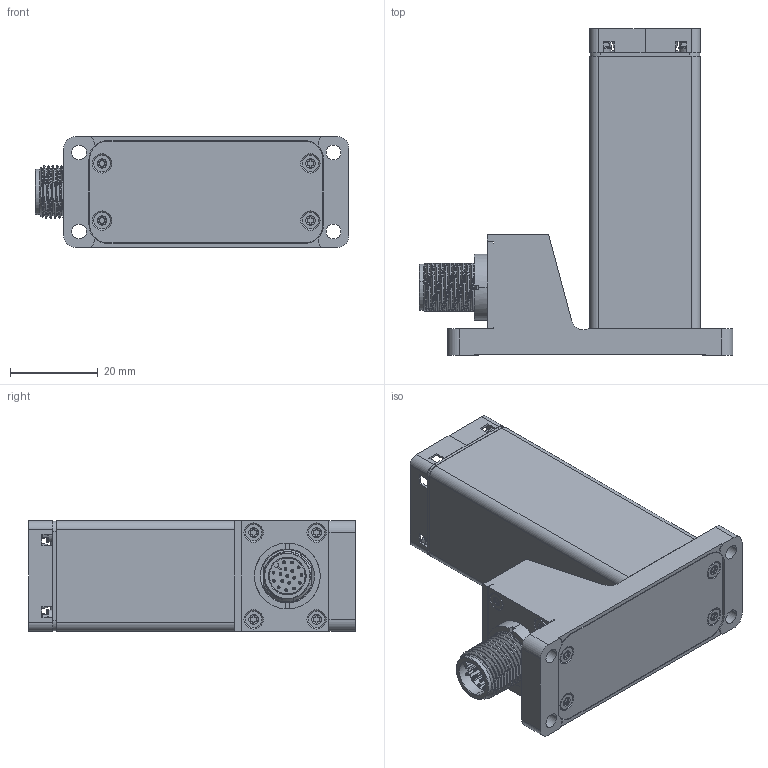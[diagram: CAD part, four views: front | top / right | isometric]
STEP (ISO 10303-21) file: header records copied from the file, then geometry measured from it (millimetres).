
FILE_DESCRIPTION((''),'2;1');
FILE_NAME('CUSTOMER_SW0001','2020-03-11T10:24:08',('scheu-1'),(''),'CREO PARAMETRIC BY PTC INC, 2018260','CREO PARAMETRIC BY PTC INC, 2018260','');
FILE_SCHEMA(('CONFIG_CONTROL_DESIGN'));
Products named in the file (1): CUSTOMER_SW0001
Bounding box: 71.5 x 74.45 x 25.2 mm (x, y, z)
Volume: 59287.8 mm3; surface area: 17372.6 mm2
Topology: 1 solids, 2 shells, 802 faces, 2100 edges, 1331 vertices
Faces by surface type: cylinder 306, plane 244, cone 103, bspline 88, torus 45, sphere 16
Entity records: 49842 total; most frequent: CARTESIAN_POINT 30413, ORIENTED_EDGE 4200, DIRECTION 3965, EDGE_CURVE 2100, AXIS2_PLACEMENT_3D 1582, VERTEX_POINT 1331, EDGE_LOOP 891, CIRCLE 868
